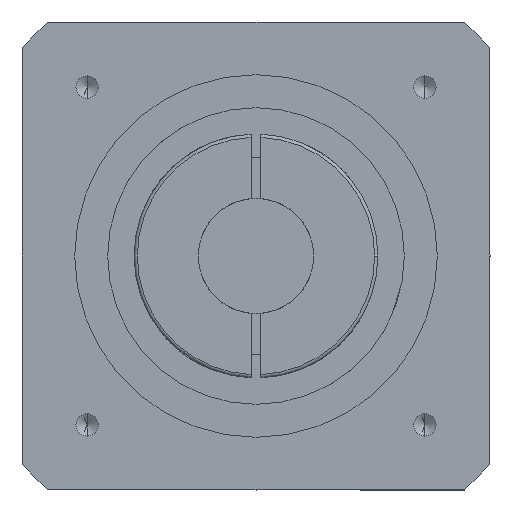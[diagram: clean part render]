
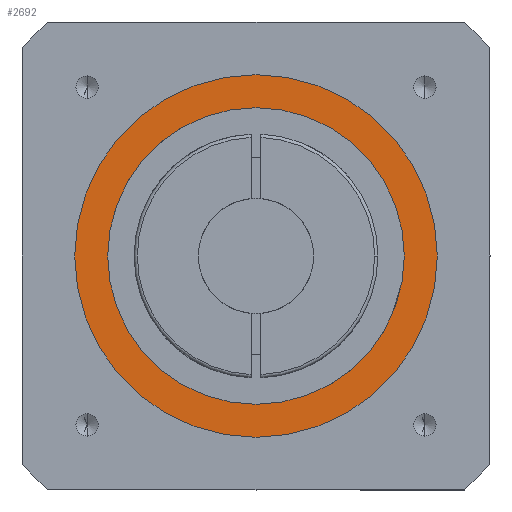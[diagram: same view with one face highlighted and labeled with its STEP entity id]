
A CAD part, front view. The second image highlights one B-rep face of the part: STEP entity #2692.
In plain terms, the highlighted planar face has unit normal (0, -1, 0).
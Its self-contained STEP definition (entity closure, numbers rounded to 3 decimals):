
#414 = FACE_BOUND ( 'NONE', #3008, .T. ) ;
#422 = FACE_OUTER_BOUND ( 'NONE', #2997, .T. ) ;
#1138 = AXIS2_PLACEMENT_3D ( 'NONE', #1313, #1314, #1315 ) ;
#1139 = AXIS2_PLACEMENT_3D ( 'NONE', #1316, #1317, #1318 ) ;
#1171 = AXIS2_PLACEMENT_3D ( 'NONE', #2024, #2025, #2026 ) ;
#1313 = CARTESIAN_POINT ( 'NONE',  ( 0., -117.5, 0. ) ) ;
#1314 = DIRECTION ( 'NONE',  ( 0., -1., 0. ) ) ;
#1315 = DIRECTION ( 'NONE',  ( 0., 0., -1. ) ) ;
#1316 = CARTESIAN_POINT ( 'NONE',  ( 0., -117.5, 0. ) ) ;
#1317 = DIRECTION ( 'NONE',  ( 0., -1., 0. ) ) ;
#1318 = DIRECTION ( 'NONE',  ( 0., 0., -1. ) ) ;
#1563 = EDGE_CURVE ( 'NONE', #3958, #3933, #3966, .T. ) ;
#1744 = EDGE_CURVE ( 'NONE', #3933, #3958, #4197, .T. ) ;
#1745 = EDGE_CURVE ( 'NONE', #3940, #3961, #4198, .T. ) ;
#1798 = EDGE_CURVE ( 'NONE', #3961, #3940, #4264, .T. ) ;
#1800 = AXIS2_PLACEMENT_3D ( 'NONE', #2626, #2621, #2627 ) ;
#2024 = CARTESIAN_POINT ( 'NONE',  ( 0., -117.5, 0. ) ) ;
#2025 = DIRECTION ( 'NONE',  ( 0., -1., 0. ) ) ;
#2026 = DIRECTION ( 'NONE',  ( 0., 0., -1. ) ) ;
#2621 = DIRECTION ( 'NONE',  ( 0., -1., 0. ) ) ;
#2626 = CARTESIAN_POINT ( 'NONE',  ( 0., -117.5, 0. ) ) ;
#2627 = DIRECTION ( 'NONE',  ( 0., 0., -1. ) ) ;
#2692 = ADVANCED_FACE ( 'NONE', ( #414, #422 ), #3249, .T. ) ;
#2997 = EDGE_LOOP ( 'NONE', ( #3829, #3830 ) ) ;
#3008 = EDGE_LOOP ( 'NONE', ( #3827, #3828 ) ) ;
#3247 = CARTESIAN_POINT ( 'NONE',  ( 0., -117.5, 0. ) ) ;
#3249 = PLANE ( 'NONE',  #4462 ) ;
#3251 = DIRECTION ( 'NONE',  ( 0., -1., 0. ) ) ;
#3252 = DIRECTION ( 'NONE',  ( 0., 0., -1. ) ) ;
#3827 = ORIENTED_EDGE ( 'NONE', *, *, #1745, .F. ) ;
#3828 = ORIENTED_EDGE ( 'NONE', *, *, #1798, .F. ) ;
#3829 = ORIENTED_EDGE ( 'NONE', *, *, #1744, .T. ) ;
#3830 = ORIENTED_EDGE ( 'NONE', *, *, #1563, .T. ) ;
#3933 = VERTEX_POINT ( 'NONE', #4747 ) ;
#3940 = VERTEX_POINT ( 'NONE', #4753 ) ;
#3958 = VERTEX_POINT ( 'NONE', #4771 ) ;
#3961 = VERTEX_POINT ( 'NONE', #4774 ) ;
#3966 = CIRCLE ( 'NONE', #1800, 55. ) ;
#4197 = CIRCLE ( 'NONE', #1138, 55. ) ;
#4198 = CIRCLE ( 'NONE', #1139, 45. ) ;
#4264 = CIRCLE ( 'NONE', #1171, 45. ) ;
#4462 = AXIS2_PLACEMENT_3D ( 'NONE', #3247, #3251, #3252 ) ;
#4747 = CARTESIAN_POINT ( 'NONE',  ( 0., -117.5, -55. ) ) ;
#4753 = CARTESIAN_POINT ( 'NONE',  ( 0., -117.5, -45. ) ) ;
#4771 = CARTESIAN_POINT ( 'NONE',  ( 0., -117.5, 55. ) ) ;
#4774 = CARTESIAN_POINT ( 'NONE',  ( 0., -117.5, 45. ) ) ;
